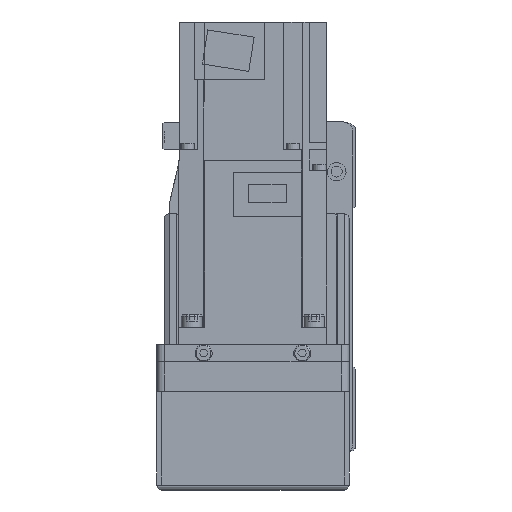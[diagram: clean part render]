
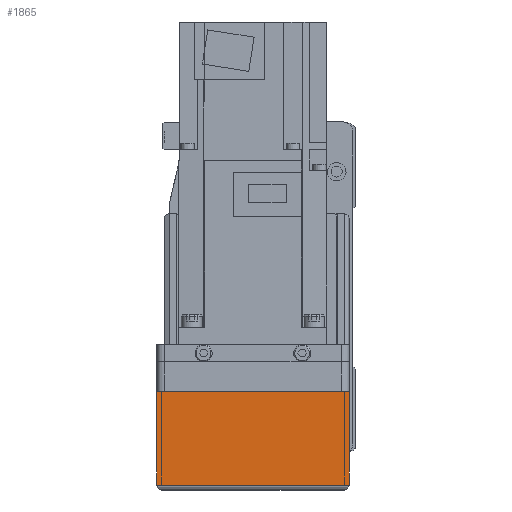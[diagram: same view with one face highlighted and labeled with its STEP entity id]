
A CAD part, left-side view. The second image highlights one B-rep face of the part: STEP entity #1865.
In plain terms, the highlighted planar face has unit normal (-1, 0, 0).
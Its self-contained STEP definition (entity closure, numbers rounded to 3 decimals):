
#1865 = ADVANCED_FACE( '', ( #4497 ), #4498, .F. );
#4497 = FACE_OUTER_BOUND( '', #8052, .T. );
#4498 = PLANE( '', #8053 );
#8052 = EDGE_LOOP( '', ( #13403, #13404, #13405, #13406 ) );
#8053 = AXIS2_PLACEMENT_3D( '', #13407, #13408, #13409 );
#13403 = ORIENTED_EDGE( '', *, *, #21540, .F. );
#13404 = ORIENTED_EDGE( '', *, *, #21541, .F. );
#13405 = ORIENTED_EDGE( '', *, *, #21542, .T. );
#13406 = ORIENTED_EDGE( '', *, *, #21543, .F. );
#13407 = CARTESIAN_POINT( '', ( -158., 36., 7. ) );
#13408 = DIRECTION( '', ( 1., 0., 0. ) );
#13409 = DIRECTION( '', ( 0., 0., -1. ) );
#21540 = EDGE_CURVE( '', #26327, #26328, #26329, .T. );
#21541 = EDGE_CURVE( '', #26330, #26327, #26331, .T. );
#21542 = EDGE_CURVE( '', #26330, #24255, #26332, .T. );
#21543 = EDGE_CURVE( '', #26328, #24255, #26333, .T. );
#24255 = VERTEX_POINT( '', #29998 );
#26327 = VERTEX_POINT( '', #33153 );
#26328 = VERTEX_POINT( '', #33154 );
#26329 = LINE( '', #33155, #33156 );
#26330 = VERTEX_POINT( '', #33157 );
#26331 = LINE( '', #33158, #33159 );
#26332 = LINE( '', #33160, #33161 );
#26333 = LINE( '', #33162, #33163 );
#29998 = CARTESIAN_POINT( '', ( -158., -39., -50. ) );
#33153 = CARTESIAN_POINT( '', ( -158., 39., -12.1 ) );
#33154 = CARTESIAN_POINT( '', ( -158., -39., -12.1 ) );
#33155 = CARTESIAN_POINT( '', ( -158., 50., -12.1 ) );
#33156 = VECTOR( '', #39372, 1000. );
#33157 = CARTESIAN_POINT( '', ( -158., 39., -50. ) );
#33158 = CARTESIAN_POINT( '', ( -158., 39., -50. ) );
#33159 = VECTOR( '', #39373, 1000. );
#33160 = CARTESIAN_POINT( '', ( -158., 40., -50. ) );
#33161 = VECTOR( '', #39374, 1000. );
#33162 = CARTESIAN_POINT( '', ( -158., -39., -12.1 ) );
#33163 = VECTOR( '', #39375, 1000. );
#39372 = DIRECTION( '', ( 0., -1., 0. ) );
#39373 = DIRECTION( '', ( 0., 0., 1. ) );
#39374 = DIRECTION( '', ( 0., -1., 0. ) );
#39375 = DIRECTION( '', ( 0., 0., -1. ) );
